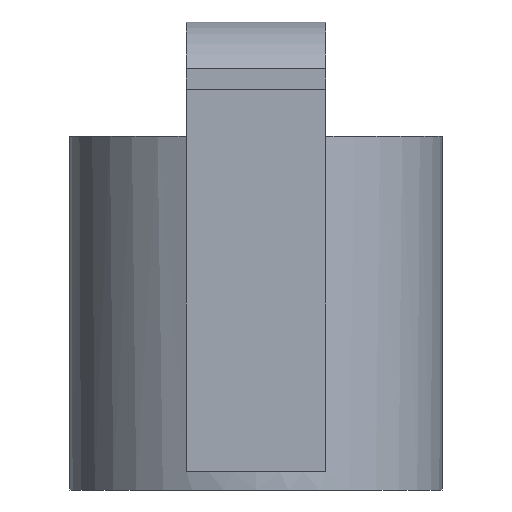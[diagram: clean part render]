
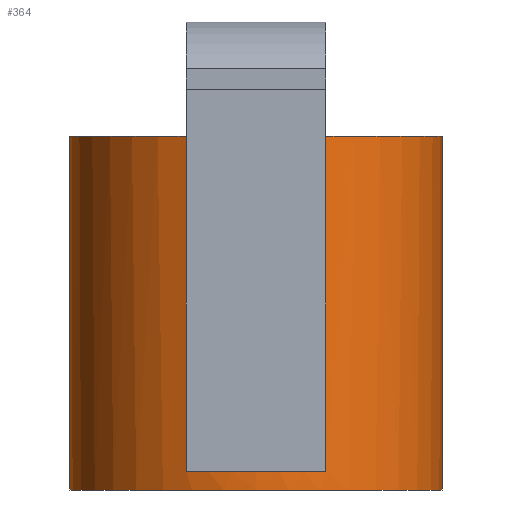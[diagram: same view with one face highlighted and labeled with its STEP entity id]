
A CAD part, left-side view. The second image highlights one B-rep face of the part: STEP entity #364.
In plain terms, the highlighted cylindrical face has radius 4 mm (diameter 8 mm), a full revolution.
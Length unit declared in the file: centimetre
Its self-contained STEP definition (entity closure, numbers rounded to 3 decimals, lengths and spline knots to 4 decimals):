
#38=FACE_OUTER_BOUND('',#58,.T.);
#58=EDGE_LOOP('',(#258,#259,#260,#261,#262,#263,#264,#265));
#81=LINE('',#543,#122);
#82=LINE('',#547,#123);
#83=LINE('',#551,#124);
#122=VECTOR('',#438,0.4);
#123=VECTOR('',#441,0.1);
#124=VECTOR('',#444,0.1);
#163=CIRCLE('',#400,0.4);
#164=CIRCLE('',#401,0.4);
#165=CIRCLE('',#402,0.4);
#166=CIRCLE('',#403,0.4);
#173=VERTEX_POINT('',#540);
#174=VERTEX_POINT('',#542);
#175=VERTEX_POINT('',#544);
#176=VERTEX_POINT('',#546);
#177=VERTEX_POINT('',#548);
#178=VERTEX_POINT('',#550);
#207=EDGE_CURVE('',#173,#173,#163,.T.);
#208=EDGE_CURVE('',#173,#174,#81,.T.);
#209=EDGE_CURVE('',#174,#175,#164,.T.);
#210=EDGE_CURVE('',#176,#175,#82,.T.);
#211=EDGE_CURVE('',#177,#176,#165,.T.);
#212=EDGE_CURVE('',#177,#178,#83,.T.);
#213=EDGE_CURVE('',#178,#174,#166,.T.);
#258=ORIENTED_EDGE('',*,*,#207,.T.);
#259=ORIENTED_EDGE('',*,*,#208,.T.);
#260=ORIENTED_EDGE('',*,*,#209,.T.);
#261=ORIENTED_EDGE('',*,*,#210,.F.);
#262=ORIENTED_EDGE('',*,*,#211,.F.);
#263=ORIENTED_EDGE('',*,*,#212,.T.);
#264=ORIENTED_EDGE('',*,*,#213,.T.);
#265=ORIENTED_EDGE('',*,*,#208,.F.);
#360=CYLINDRICAL_SURFACE('',#399,0.4);
#364=ADVANCED_FACE('',(#38),#360,.T.);
#399=AXIS2_PLACEMENT_3D('',#539,#434,#435);
#400=AXIS2_PLACEMENT_3D('',#541,#436,#437);
#401=AXIS2_PLACEMENT_3D('',#545,#439,#440);
#402=AXIS2_PLACEMENT_3D('',#549,#442,#443);
#403=AXIS2_PLACEMENT_3D('',#552,#445,#446);
#434=DIRECTION('center_axis',(0.,0.,-1.));
#435=DIRECTION('ref_axis',(1.,0.,0.));
#436=DIRECTION('center_axis',(0.,0.,1.));
#437=DIRECTION('ref_axis',(1.,0.,0.));
#438=DIRECTION('',(0.,0.,1.));
#439=DIRECTION('center_axis',(0.,0.,-1.));
#440=DIRECTION('ref_axis',(1.,0.,0.));
#441=DIRECTION('',(0.,0.,-1.));
#442=DIRECTION('center_axis',(0.,0.,1.));
#443=DIRECTION('ref_axis',(1.,0.,0.));
#444=DIRECTION('',(0.,0.,-1.));
#445=DIRECTION('center_axis',(0.,0.,-1.));
#446=DIRECTION('ref_axis',(1.,0.,0.));
#539=CARTESIAN_POINT('Origin',(-2.6,1.5,0.01));
#540=CARTESIAN_POINT('',(-3.,1.5,-0.07));
#541=CARTESIAN_POINT('Origin',(-2.6,1.5,-0.07));
#542=CARTESIAN_POINT('',(-3.,1.5,-0.03));
#543=CARTESIAN_POINT('',(-3.,1.5,0.01));
#544=CARTESIAN_POINT('',(-2.9708,1.65,-0.03));
#545=CARTESIAN_POINT('Origin',(-2.6,1.5,-0.03));
#546=CARTESIAN_POINT('',(-2.9708,1.65,0.69));
#547=CARTESIAN_POINT('',(-2.9708,1.65,0.01));
#548=CARTESIAN_POINT('',(-2.9708,1.35,0.69));
#549=CARTESIAN_POINT('Origin',(-2.6,1.5,0.69));
#550=CARTESIAN_POINT('',(-2.9708,1.35,-0.03));
#551=CARTESIAN_POINT('',(-2.9708,1.35,0.01));
#552=CARTESIAN_POINT('Origin',(-2.6,1.5,-0.03));
